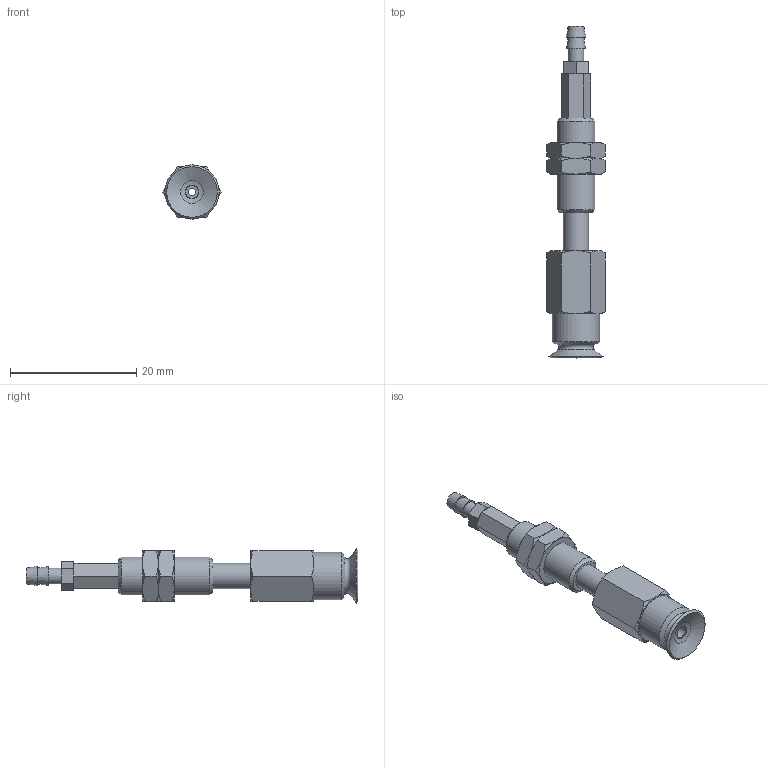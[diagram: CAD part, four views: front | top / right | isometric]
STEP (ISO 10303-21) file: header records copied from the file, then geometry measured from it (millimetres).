
FILE_DESCRIPTION(('STEP AP203'),'1');
FILE_NAME('-T.stp','2025-08-27T05:43:29',(' '),(' '),'Spatial InterOp 3D',' ',' ');
FILE_SCHEMA(('CONFIG_CONTROL_DESIGN'));
Length unit declared in the file: millimetre
Products named in the file (7): BNABPFTS-8A-6-※-T; ADAPTER; NAPCTS-7-6-MBODY; Nut-8A-6-s; NAPFTS-8A-6-FBODY; BPFG-8A-※; T (2)
Assembly tree (7 placements, depth 2):
  BNABPFTS-8A-6-※-T
    ADAPTER
    NAPCTS-7-6-MBODY
    Nut-8A-6-s  x2
    NAPFTS-8A-6-FBODY
    BPFG-8A-※
    T (2)
Bounding box: 9.24 x 52.6 x 8.6 mm (x, y, z)
Volume: 1567.1 mm3; surface area: 2391.4 mm2
Topology: 7 solids, 7 shells, 135 faces, 280 edges, 167 vertices
Faces by surface type: plane 58, cone 51, cylinder 17, torus 8, bspline 1
Full cylindrical faces by diameter (mm): 1.2 x3, 2 x1, 2.459 x1, 2.5 x1, 3 x1, 4 x4, 5.188 x2, 6 x3, 7.5 x1
Entity records: 3243 total; most frequent: CARTESIAN_POINT 731, DIRECTION 460, ORIENTED_EDGE 374, AXIS2_PLACEMENT_3D 203, EDGE_CURVE 187, EDGE_LOOP 169, FACE_OUTER_BOUND 137, VERTEX_POINT 132
